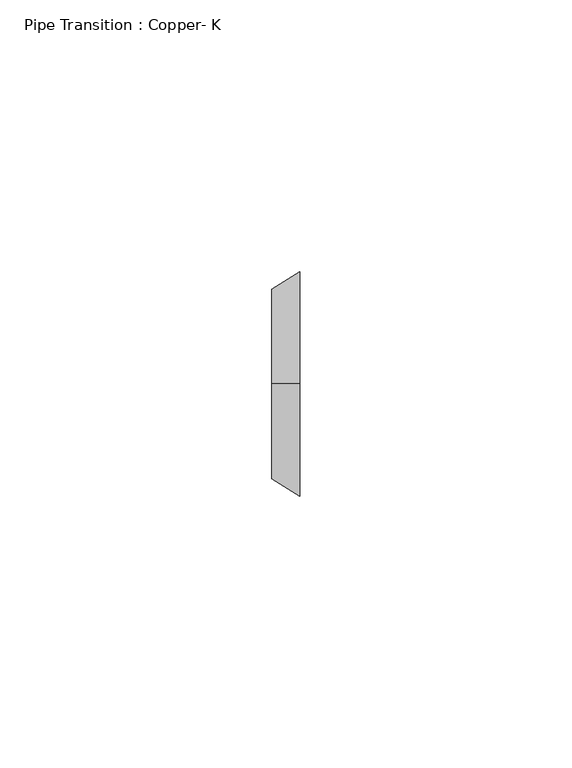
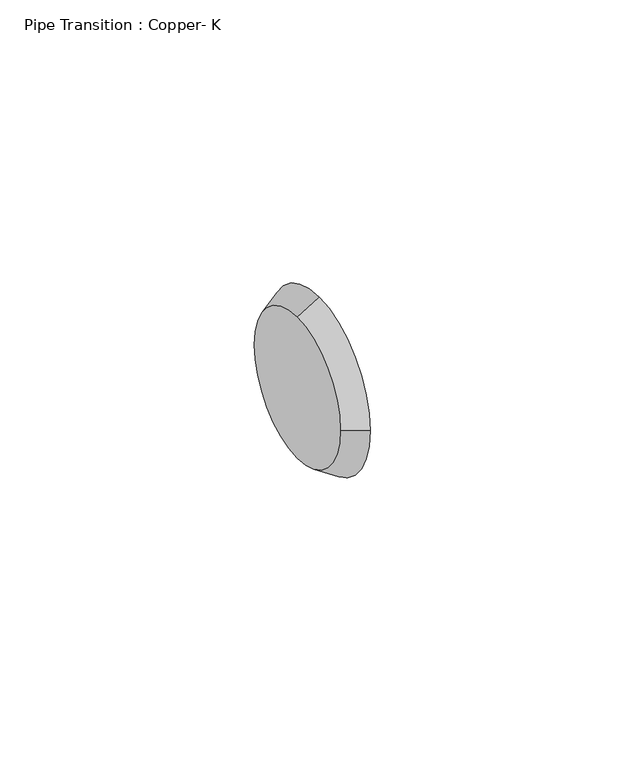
"""IFC4 building model written with IfcOpenShell, lengths in millimetres: pipe fitting geometry, Pipe Transition : Copper- K."""

from ifc_helpers import new_model, si_unit, frame, origin, place, context, project, spatial, polyline, circle_curve, source, transform, mapped, element, save
from ifc_brep_helpers import plane_surface, revolved_surface, advanced_brep


def pipe_transition_copper_k_98bd30c5(model_context):
    return source(origin(), model_context, "Body", "AdvancedBrep", [
        advanced_brep(
        [(5.159375, 0.0, 20.6375), (5.159375, -20.6375, 0.0), (5.159375, 0.0, -20.6375), (5.159375, 20.6375, 0.0), (0.0, 0.0, 17.4625), (0.0, 17.4625, 0.0), (0.0, 0.0, -17.4625), (0.0, -17.4625, 0.0)],
        [
            (0, 1, circle_curve(frame((5.159375, 0.0, 0.0), z_axis=(1.0, 0.0, 0.0), x_axis=(0.0, 0.0, 1.0)), 20.6375)),
            (1, 2, circle_curve(frame((5.159375, 0.0, 0.0), z_axis=(1.0, 0.0, 0.0), x_axis=(0.0, -1.0, 0.0)), 20.6375)),
            (2, 3, circle_curve(frame((5.159375, 0.0, 0.0), z_axis=(1.0, 0.0, 0.0), x_axis=(0.0, 0.0, -1.0)), 20.6375)),
            (3, 0, circle_curve(frame((5.159375, 0.0, 0.0), z_axis=(1.0, 0.0, 0.0), x_axis=(0.0, 1.0, 0.0)), 20.6375)),
            (4, 5, circle_curve(frame((0.0, 0.0, 0.0), z_axis=(-1.0, 0.0, 0.0), x_axis=(0.0, 1.0, 0.0)), 17.4625)),
            (5, 6, circle_curve(frame((0.0, 0.0, 0.0), z_axis=(-1.0, 0.0, 0.0), x_axis=(0.0, 0.0, -1.0)), 17.4625)),
            (6, 7, circle_curve(frame((0.0, 0.0, 0.0), z_axis=(-1.0, 0.0, 0.0), x_axis=(0.0, -1.0, 0.0)), 17.4625)),
            (7, 4, circle_curve(frame((0.0, 0.0, 0.0), z_axis=(-1.0, 0.0, 0.0), x_axis=(0.0, 0.0, 1.0)), 17.4625)),
            (7, 1),
            (0, 4),
            (6, 2),
            (5, 3),
        ],
        [
            plane_surface(frame((5.159375, 0.0, 0.0), z_axis=(1.0, 0.0, 0.0), x_axis=(0.0, -1.0, 0.0))),
            plane_surface(frame((0.0, 0.0, 0.0), z_axis=(-1.0, 0.0, 0.0), x_axis=(0.0, -1.0, 0.0))),
            revolved_surface(polyline([(0.0, -17.462500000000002, 0.0), (5.159374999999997, -20.6375, 0.0)]), (-28.3765625, 0.0, 0.0), (1.0, 0.0, 0.0)),
            revolved_surface(polyline([(0.0, 0.0, -17.462500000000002), (5.159374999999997, 0.0, -20.6375)]), (-28.3765625, 0.0, 0.0), (1.0, 0.0, 0.0)),
            revolved_surface(polyline([(0.0, 17.462500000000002, 0.0), (5.159374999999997, 20.6375, 0.0)]), (-28.3765625, 0.0, 0.0), (1.0, 0.0, 0.0)),
            revolved_surface(polyline([(0.0, 0.0, 17.462500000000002), (5.159374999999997, 0.0, 20.6375)]), (-28.3765625, 0.0, 0.0), (1.0, 0.0, 0.0)),
        ],
        [
            (0, [[1, 2, 3, 4]]),
            (1, [[5, 6, 7, 8]]),
            (2, [[-8, 9, -1, 10]]),
            (3, [[-7, 11, -2, -9]]),
            (4, [[-6, 12, -3, -11]]),
            (5, [[-5, -10, -4, -12]]),
        ],
    ),
        advanced_brep(
        [(5.159375, 0.0, 20.6375), (5.159375, -20.6375, 0.0), (5.159375, 0.0, -20.6375), (5.159375, 20.6375, 0.0), (0.0, 0.0, 17.4625), (0.0, 17.4625, 0.0), (0.0, 0.0, -17.4625), (0.0, -17.4625, 0.0)],
        [
            (0, 1, circle_curve(frame((5.159375, 0.0, 0.0), z_axis=(1.0, 0.0, -1.6220240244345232e-12), x_axis=(1.6220224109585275e-12, 0.0, 1.0)), 20.6375)),
            (1, 2, circle_curve(frame((5.159375, 0.0, 0.0), z_axis=(1.0, 0.0, -1.5564354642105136e-12), x_axis=(0.0, -1.0, 0.0)), 20.6375)),
            (2, 3, circle_curve(frame((5.159375, 0.0, 0.0), z_axis=(1.0, 0.0, -2.5275879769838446e-12), x_axis=(-2.527618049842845e-12, 0.0, -1.0)), 20.6375)),
            (3, 0, circle_curve(frame((5.159375, 0.0, 0.0), z_axis=(1.0, 0.0, 0.0), x_axis=(0.0, 1.0, 0.0)), 20.6375)),
            (4, 5, circle_curve(frame((0.0, 0.0, 0.0), z_axis=(-1.0, 0.0, 0.0), x_axis=(0.0, 1.0, 0.0)), 17.4625)),
            (5, 6, circle_curve(frame((0.0, 0.0, 0.0), z_axis=(-1.0, 0.0, 2.5275879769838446e-12), x_axis=(-2.527618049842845e-12, 0.0, -1.0)), 17.4625)),
            (6, 7, circle_curve(frame((0.0, 0.0, 0.0), z_axis=(-1.0, 0.0, 1.5564354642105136e-12), x_axis=(0.0, -1.0, 0.0)), 17.4625)),
            (7, 4, circle_curve(frame((0.0, 0.0, 0.0), z_axis=(-1.0, 0.0, 1.6220240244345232e-12), x_axis=(1.6220224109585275e-12, 0.0, 1.0)), 17.4625)),
            (7, 1),
            (0, 4),
            (6, 2),
            (5, 3),
        ],
        [
            plane_surface(frame((5.159375, 0.0, 0.0), z_axis=(1.0, 0.0, 0.0), x_axis=(0.0, -1.0, 0.0))),
            plane_surface(frame((0.0, 0.0, 0.0), z_axis=(-1.0, 0.0, 0.0), x_axis=(0.0, -1.0, 0.0))),
            revolved_surface(polyline([(-2.8325786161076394e-11, -17.46249999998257, 0.0), (5.159374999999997, -20.6375, 0.0)]), (-28.3765625, 0.0, 0.0), (1.0, 0.0, -1.6220240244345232e-12)),
            revolved_surface(polyline([(-2.7181812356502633e-11, 0.0, -17.462499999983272), (5.159374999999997, 0.0, -20.6375)]), (-28.3765625, 0.0, 0.0), (1.0, 0.0, -1.5564354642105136e-12)),
            revolved_surface(polyline([(0.0, 17.462500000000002, 0.0), (5.159375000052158, 20.637500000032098, 0.0)]), (-28.3765625, 0.0, 0.0), (1.0, 0.0, -2.5275879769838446e-12)),
            revolved_surface(polyline([(0.0, 0.0, 17.462500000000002), (5.159374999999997, 0.0, 20.6375)]), (-28.3765625, 0.0, 0.0), (1.0, 0.0, 0.0)),
        ],
        [
            (0, [[1, 2, 3, 4]]),
            (1, [[5, 6, 7, 8]]),
            (2, [[-8, 9, -1, 10]]),
            (3, [[-7, 11, -2, -9]]),
            (4, [[-6, 12, -3, -11]]),
            (5, [[-5, -10, -4, -12]]),
        ],
    ),
    ])


if __name__ == "__main__":
    model = new_model("IFC4")
    model_context = context("Model", 3, world=origin())
    ifc_project = project(units=[si_unit("LENGTHUNIT", "METRE", prefix="MILLI")], contexts=[model_context])
    site = spatial("IfcSite", under=ifc_project)
    building = spatial("IfcBuilding", under=site)
    placement = place(None, origin())
    pipe_transition_copper_k_shape = pipe_transition_copper_k_98bd30c5(model_context)
    element("IfcPipeFitting", 1, ObjectType="Pipe Transition : Copper- K", at=placement, inside=building, context=model_context, shape_type="MappedRepresentation", body=[
        mapped(pipe_transition_copper_k_shape, transform((0.0, 0.0, 0.0), x_axis=(1.0, 0.0, 0.0), y_axis=(0.0, 1.0, 0.0), z_axis=(0.0, 0.0, 1.0))),
    ])
    save(model, "model.ifc")
